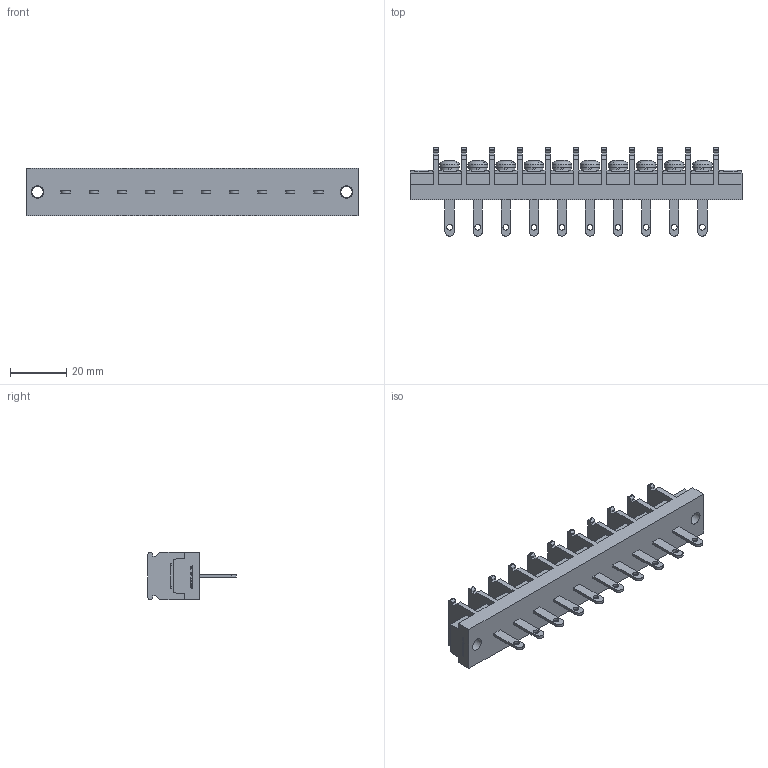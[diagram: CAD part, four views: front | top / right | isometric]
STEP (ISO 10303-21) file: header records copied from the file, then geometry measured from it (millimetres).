
FILE_DESCRIPTION(/* description */ ('Alibre Inc.'),/* implementation_level */ '2;1');
FILE_NAME(/* name */ 'export0',/* time_stamp */ '2015-10-14T19:28:34+09:00',/* author */ (''),/* organization */ (''),/* preprocessor_version */ 'ST-DEVELOPER v14',/* originating_system */ 'Alibre',/* authorisation */ '');
FILE_SCHEMA (('CONFIG_CONTROL_DESIGN'));
Length unit declared in the file: centimetre
Products named in the file (1): ID_1
Bounding box: 118.2 x 31.5 x 17 mm (x, y, z)
Volume: 21953.7 mm3; surface area: 13428.9 mm2
Topology: 1 solids, 17 shells, 1124 faces, 3088 edges, 2052 vertices
Faces by surface type: plane 828, cylinder 122, bspline 104, cone 40, torus 20, sphere 10
Full cylindrical faces by diameter (mm): 2 x10, 4 x12, 4.5 x2, 6.5 x10, 7 x10
Entity records: 34470 total; most frequent: CARTESIAN_POINT 7388, ORIENTED_EDGE 5988, DIRECTION 4464, EDGE_CURVE 2994, VECTOR 2164, LINE 2164, VERTEX_POINT 2012, AXIS2_PLACEMENT_3D 1564
